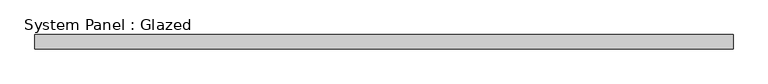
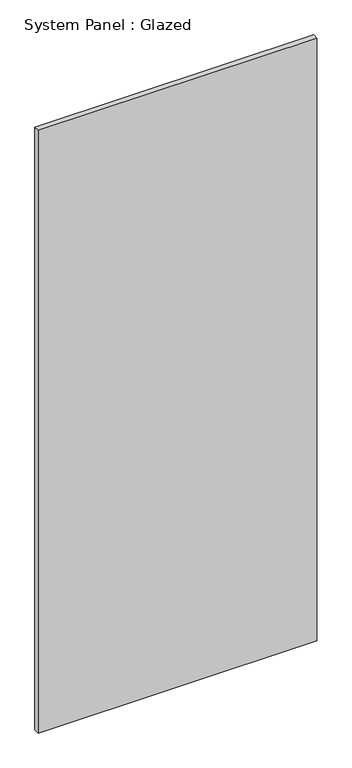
"""IFC4 building model written with IfcOpenShell, lengths in millimetres: plate geometry, System Panel : Glazed."""

import ifcopenshell
import ifcopenshell.guid

model = None  # the IFC model being written
_history = None  # IfcOwnerHistory: only IFC2X3 demands one
_inside = {}  # id of a spatial element -> (the spatial element, [elements in it])
_under = {}  # id of a project, library or spatial element -> (it, [spatial elements below it])
_declared = {}  # id of a project -> (the project, [libraries it declares])
_typed = {}  # id of a type object -> (the type object, [elements of that type])
_made_of = {}  # id of a material, layer set ... -> (it, [elements and type objects made of it])


def new_model(schema):
    """Start an empty IFC model of exactly this schema.

    Asked for "IFC4X3", IfcOpenShell would pick the latest addendum, in which some entities
    have other attributes; the version numbers below select the first issue.
    IFC2X3 requires an IfcOwnerHistory on every rooted entity: one is made here for all.
    """
    global model, _history
    if schema == "IFC4X3":
        model = ifcopenshell.file(schema_version=(4, 3, 0, 0))
    else:
        model = ifcopenshell.file(schema=schema)
    _inside.clear()
    _under.clear()
    _declared.clear()
    _typed.clear()
    _made_of.clear()
    _history = None
    if model.schema == "IFC2X3":
        org = make("IfcOrganization", Name="unknown")
        user = make(
            "IfcPersonAndOrganization",
            ThePerson=make("IfcPerson", FamilyName="unknown"),
            TheOrganization=org,
        )
        app = make(
            "IfcApplication",
            ApplicationDeveloper=org,
            Version="unknown",
            ApplicationFullName="unknown",
            ApplicationIdentifier="unknown",
        )
        _history = make(
            "IfcOwnerHistory",
            OwningUser=user,
            OwningApplication=app,
            ChangeAction="ADDED",
            CreationDate=0,
        )
    return model


def make(cls, **values):
    """One entity of the class cls with the attributes given. An attribute that is None is left unset."""
    return model.create_entity(
        cls, **{name: value for name, value in values.items() if value is not None}
    )


def rooted(cls, **values):
    """An entity with a GlobalId (a new one), such as an element, a storey or a relation."""
    return make(cls, GlobalId=ifcopenshell.guid.new(), OwnerHistory=_history, **values)


def si_unit(unit_type, name, prefix=None):
    """IfcSIUnit, for example si_unit("LENGTHUNIT", "METRE", prefix="MILLI")."""
    return make("IfcSIUnit", UnitType=unit_type, Prefix=prefix, Name=name)


def assignment(units):
    """IfcUnitAssignment: the units of a project."""
    return None if units is None else make("IfcUnitAssignment", Units=units)


def point(xyz):
    """IfcCartesianPoint."""
    return None if xyz is None else make("IfcCartesianPoint", Coordinates=xyz)


def direction(xyz):
    """IfcDirection."""
    return None if xyz is None else make("IfcDirection", DirectionRatios=xyz)


def frame(location, z_axis=None, x_axis=None):
    """IfcAxis2Placement3D, a coordinate frame: its origin and axes. An axis left out is left unset."""
    return make(
        "IfcAxis2Placement3D",
        Location=point(location),
        Axis=direction(z_axis),
        RefDirection=direction(x_axis),
    )


def origin():
    """The frame at (0, 0, 0) with its axes left unset."""
    return frame((0.0, 0.0, 0.0))


def origin_with_axes():
    """The frame at (0, 0, 0) with the z axis (0, 0, 1) and the x axis (1, 0, 0) written out."""
    return frame((0.0, 0.0, 0.0), z_axis=(0.0, 0.0, 1.0), x_axis=(1.0, 0.0, 0.0))


def place(relative_to, where):
    """IfcLocalPlacement: puts the frame where relative to a parent placement (None: the world)."""
    return make(
        "IfcLocalPlacement", PlacementRelTo=relative_to, RelativePlacement=where
    )


def context(
    kind, dimensions, precision=None, world=None, true_north=None, identifier=None
):
    """IfcGeometricRepresentationContext, for example the 3D "Model" context."""
    return make(
        "IfcGeometricRepresentationContext",
        ContextIdentifier=identifier,
        ContextType=kind,
        CoordinateSpaceDimension=dimensions,
        Precision=precision,
        WorldCoordinateSystem=world,
        TrueNorth=true_north,
    )


def project(units=None, contexts=None):
    """IfcProject with its units and contexts."""
    return rooted(
        "IfcProject",
        Name="project",
        RepresentationContexts=contexts,
        UnitsInContext=assignment(units),
    )


def spatial(cls, under=None, at=None, **own):
    """A site, building, storey or space (cls), placed at a placement, below another one or the project."""
    s = rooted(cls, ObjectPlacement=at, **own)
    if under is not None:
        _under.setdefault(under.id(), (under, []))[1].append(s)
    return s


def polyline(points):
    """IfcPolyline through the points."""
    return make("IfcPolyline", Points=[point(p) for p in points])


def outline(outer, holes=None, kind="AREA"):
    """IfcArbitraryClosedProfileDef: a profile drawn as a closed curve; with holes, ...WithVoids."""
    if holes is None:
        return make("IfcArbitraryClosedProfileDef", ProfileType=kind, OuterCurve=outer)
    return make(
        "IfcArbitraryProfileDefWithVoids",
        ProfileType=kind,
        OuterCurve=outer,
        InnerCurves=holes,
    )


def extrude(swept, where, along, depth):
    """IfcExtrudedAreaSolid: the profile swept, set in the frame where, extruded along a direction by depth."""
    return make(
        "IfcExtrudedAreaSolid",
        SweptArea=swept,
        Position=where,
        ExtrudedDirection=direction(along),
        Depth=depth,
    )


def shape(context_of_items, identifier, shape_type, items):
    """IfcShapeRepresentation: the items that make up one representation, for example the "Body"."""
    return make(
        "IfcShapeRepresentation",
        ContextOfItems=context_of_items,
        RepresentationIdentifier=identifier,
        RepresentationType=shape_type,
        Items=items,
    )


def source(mapping_origin, context_of_items, identifier, shape_type, items):
    """IfcRepresentationMap: a shape defined once, which mapped items show again and again."""
    return make(
        "IfcRepresentationMap",
        MappingOrigin=mapping_origin,
        MappedRepresentation=shape(context_of_items, identifier, shape_type, items),
    )


def transform(
    local_origin,
    x_axis=None,
    y_axis=None,
    z_axis=None,
    scale=None,
    scale2=None,
    scale3=None,
    uniform=True,
):
    """IfcCartesianTransformationOperator3D, or its non-uniform kind. x_axis, y_axis, z_axis: its Axis1, 2, 3."""
    if uniform:
        return make(
            "IfcCartesianTransformationOperator3D",
            Axis1=direction(x_axis),
            Axis2=direction(y_axis),
            LocalOrigin=point(local_origin),
            Scale=scale,
            Axis3=direction(z_axis),
        )
    return make(
        "IfcCartesianTransformationOperator3DnonUniform",
        Axis1=direction(x_axis),
        Axis2=direction(y_axis),
        LocalOrigin=point(local_origin),
        Scale=scale,
        Axis3=direction(z_axis),
        Scale2=scale2,
        Scale3=scale3,
    )


def mapped(mapping_source, mapping_target):
    """IfcMappedItem: shows the shape of a source again, moved by a transform."""
    return make(
        "IfcMappedItem", MappingSource=mapping_source, MappingTarget=mapping_target
    )


def made_of(thing, what):
    """Note that an element or type object is made of a material, layer set ...; save() writes the relation."""
    if what is not None:
        _made_of.setdefault(what.id(), (what, []))[1].append(thing)
    return thing


def element(
    cls,
    number,
    at=None,
    inside=None,
    cuts=None,
    type_object=None,
    material=None,
    context=None,
    identifier="Body",
    shape_type=None,
    held_by="IfcProductDefinitionShape",
    body=None,
    shapes=None,
    **own,
):
    """One element of the class cls, such as IfcWall. Its Tag is "e" and its number.

    at: its placement. inside: the storey or other place that contains it. cuts: it is an
    opening in that element (IfcRelVoidsElement). A single representation is given by context,
    identifier, shape_type and body (its items); several are given by shapes. held_by: the class
    of the entity that holds the representations. save() writes the other relations.
    """
    e = rooted(cls, Tag="e%d" % number, ObjectPlacement=at, **own)
    if body is not None:
        shapes = [shape(context, identifier, shape_type, body)]
    if shapes is not None:
        e.Representation = make(held_by, Representations=shapes)
    if inside is not None:
        _inside.setdefault(inside.id(), (inside, []))[1].append(e)
    if cuts is not None:
        rooted(
            "IfcRelVoidsElement", RelatingBuildingElement=cuts, RelatedOpeningElement=e
        )
    if type_object is not None:
        _typed.setdefault(type_object.id(), (type_object, []))[1].append(e)
    return made_of(e, material)


def aggregate(whole, parts):
    """IfcRelAggregates: a whole, such as a stair, and the parts it consists of."""
    return rooted("IfcRelAggregates", RelatingObject=whole, RelatedObjects=parts)


def save(model, path):
    """Write the relations noted so far, then the file.

    IfcRelAggregates (storeys below a building ...), IfcRelContainedInSpatialStructure (elements
    in a storey), IfcRelDefinesByType, IfcRelAssociatesMaterial and IfcRelDeclares: one each for
    every whole, place, type object, material and project.
    """
    for whole, parts in _under.values():
        aggregate(whole, parts)
    for where, things in _inside.values():
        rooted(
            "IfcRelContainedInSpatialStructure",
            RelatedElements=things,
            RelatingStructure=where,
        )
    for kind, things in _typed.values():
        rooted("IfcRelDefinesByType", RelatedObjects=things, RelatingType=kind)
    for what, things in _made_of.values():
        rooted("IfcRelAssociatesMaterial", RelatedObjects=things, RelatingMaterial=what)
    for by, libraries in _declared.values():
        rooted("IfcRelDeclares", RelatingContext=by, RelatedDefinitions=libraries)
    model.write(path)


def system_panel_glazed_f00868e0(model_context):
    return source(origin(), model_context, "Body", "SweptSolid", [
        extrude(outline(polyline([(612.5000001, 0.0), (-612.5000001, 0.0), (-612.5000001, 25.0), (612.5000001, 25.0), (612.5000001, 0.0)])), origin_with_axes(), (0.0, 0.0, 1.0), 2800.0),
    ])


if __name__ == "__main__":
    model = new_model("IFC4")
    model_context = context("Model", 3, world=origin())
    ifc_project = project(units=[si_unit("LENGTHUNIT", "METRE", prefix="MILLI")], contexts=[model_context])
    site = spatial("IfcSite", under=ifc_project)
    building = spatial("IfcBuilding", under=site)
    placement = place(None, origin())
    system_panel_glazed_shape = system_panel_glazed_f00868e0(model_context)
    element("IfcPlate", 1, ObjectType="System Panel : Glazed", at=placement, inside=building, context=model_context, shape_type="MappedRepresentation", body=[
        mapped(system_panel_glazed_shape, transform((0.0, 0.0, 0.0), x_axis=(1.0, 0.0, 0.0), y_axis=(0.0, 1.0, 0.0), z_axis=(0.0, 0.0, 1.0))),
    ])
    save(model, "model.ifc")
